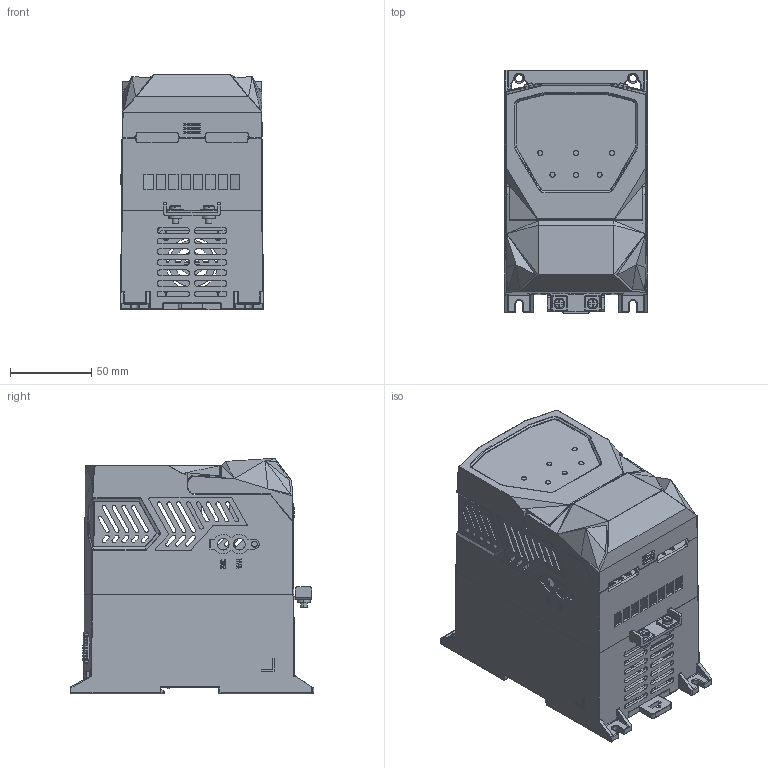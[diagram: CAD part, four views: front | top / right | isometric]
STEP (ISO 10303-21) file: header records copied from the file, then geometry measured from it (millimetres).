
FILE_DESCRIPTION(('CATIA V5 STEP Exchange'),'2;1');
FILE_NAME('F:\结构共享\01.外发资料\外形尺寸图 - 副本\0.变频\E600\Q1.stp','2024-05-28T06:13:53+00:00',('none'),('none'),'CATIA Version 5 Release 21 GA (IN-10)','CATIA V5 STEP AP203 Edition 2','none');
FILE_SCHEMA(('AP203_CONFIGURATION_CONTROLLED_3D_DESIGN_OF_MECHANICAL_PARTS_AND_ASSEMBLIES_MIM_LF { 1 0 10303 403 2 1 2}'));
Products named in the file (1): Q1
Bounding box: 88.16 x 150.02 x 144.99 mm (x, y, z)
Surface area: 172794.5 mm2 (no closed solid volume)
Topology: 0 solids, 1 shells, 3601 faces, 9814 edges, 6307 vertices
Faces by surface type: plane 1977, cylinder 930, extrusion 266, bspline 176, torus 131, sphere 77, cone 44
Entity records: 150430 total; most frequent: CARTESIAN_POINT 62727, ORIENTED_EDGE 19616, DIRECTION 13878, EDGE_CURVE 9809, VECTOR 6882, LINE 6616, VERTEX_POINT 6306, AXIS2_PLACEMENT_3D 3960
